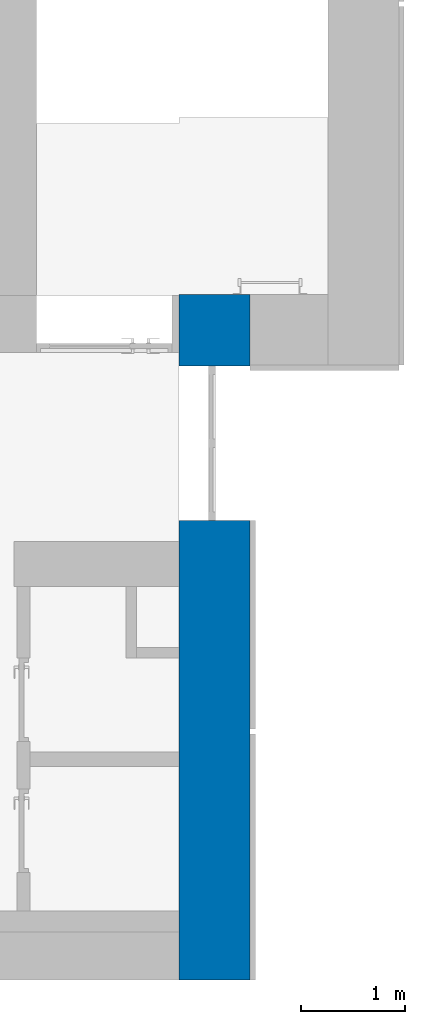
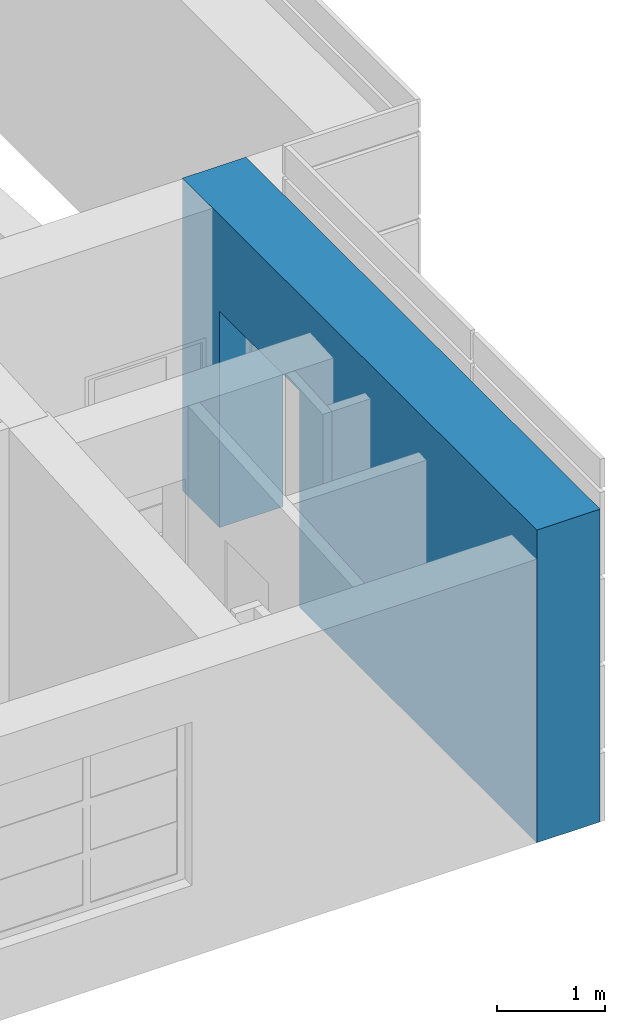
# One storey, part 40 of 46: 1 wall, 1 opening.
"""IFC2X3 building model written with IfcOpenShell, lengths in millimetres."""

from ifc_helpers import new_model, entity, si_unit, converted_unit, derived_unit, direction, frame, frame_2d, origin, place, context, subcontext, project, spatial, rectangle, extrude, material, layer, layer_set, layer_usage, type_object, element, save


model = new_model("IFC2X3")

# Units and contexts
model_context = context("Model", 3, precision=0.01, world=origin(), true_north=direction((6.12303176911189e-17, 1.0)))
body_context = subcontext(model_context, "Body", "Model", "MODEL_VIEW")
ifc_project = project(units=[si_unit("LENGTHUNIT", "METRE", prefix="MILLI"), si_unit("AREAUNIT", "SQUARE_METRE"), si_unit("VOLUMEUNIT", "CUBIC_METRE"), converted_unit("PLANEANGLEUNIT", "DEGREE", entity("IfcRatioMeasure", 0.0174532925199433), si_unit("PLANEANGLEUNIT", "RADIAN"), dimensions=[0, 0, 0, 0, 0, 0, 0]), si_unit("MASSUNIT", "GRAM", prefix="KILO"), derived_unit("MASSDENSITYUNIT", [(si_unit("MASSUNIT", "GRAM", prefix="KILO"), 1), (si_unit("LENGTHUNIT", "METRE"), -3)]), si_unit("TIMEUNIT", "SECOND"), si_unit("FREQUENCYUNIT", "HERTZ"), si_unit("THERMODYNAMICTEMPERATUREUNIT", "DEGREE_CELSIUS"), derived_unit("THERMALTRANSMITTANCEUNIT", [(si_unit("MASSUNIT", "GRAM", prefix="KILO"), 1), (si_unit("THERMODYNAMICTEMPERATUREUNIT", "KELVIN"), -1), (si_unit("TIMEUNIT", "SECOND"), -3)]), derived_unit("VOLUMETRICFLOWRATEUNIT", [(si_unit("LENGTHUNIT", "METRE"), 3), (si_unit("TIMEUNIT", "SECOND"), -1)]), si_unit("ELECTRICCURRENTUNIT", "AMPERE"), si_unit("ELECTRICVOLTAGEUNIT", "VOLT"), si_unit("POWERUNIT", "WATT"), si_unit("FORCEUNIT", "NEWTON", prefix="KILO"), si_unit("ILLUMINANCEUNIT", "LUX"), si_unit("LUMINOUSFLUXUNIT", "LUMEN"), si_unit("LUMINOUSINTENSITYUNIT", "CANDELA"), derived_unit("USERDEFINED", [(si_unit("MASSUNIT", "GRAM", prefix="KILO"), -1), (si_unit("LENGTHUNIT", "METRE"), -2), (si_unit("TIMEUNIT", "SECOND"), 3), (si_unit("LUMINOUSFLUXUNIT", "LUMEN"), 1)]), derived_unit("LINEARVELOCITYUNIT", [(si_unit("LENGTHUNIT", "METRE"), 1), (si_unit("TIMEUNIT", "SECOND"), -1)]), si_unit("PRESSUREUNIT", "PASCAL"), derived_unit("USERDEFINED", [(si_unit("LENGTHUNIT", "METRE"), -2), (si_unit("MASSUNIT", "GRAM", prefix="KILO"), 1), (si_unit("TIMEUNIT", "SECOND"), -2)])], contexts=[model_context])

# Site, building, storey
site_placement = place(None, frame((-151.875543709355, 2715.0, 0.0)))
site = spatial("IfcSite", under=ifc_project, at=site_placement, Name="Surface", CompositionType="ELEMENT")
building_placement = place(site_placement, origin())
building = spatial("IfcBuilding", under=site, at=building_placement, CompositionType="ELEMENT")
storey_placement = place(building_placement, frame((0.0, 0.0, 10060.0)))
storey = spatial("IfcBuildingStorey", under=building, at=storey_placement, Name="4 korrus", CompositionType="ELEMENT", Elevation=10060.0000000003)

# Wall, opening
ifc_material_1 = material(Name="__Tuuletõkkeplaat")
ifc_layer_1 = layer(ifc_material_1, 9.0)
ifc_material_2 = material(Name="__Soojustus EPS")
ifc_layer_2 = layer(ifc_material_2, 200.0)
ifc_material_3 = material(Name="Brick, Common")
ifc_layer_3 = layer(ifc_material_3, 450.0)
ifc_material_4 = material(Name="__Kips GN13_tava")
ifc_layer_4 = layer(ifc_material_4, 20.0)
ifc_layer_set = layer_set([ifc_layer_1, ifc_layer_2, ifc_layer_3, ifc_layer_4], Name="Basic Wall:VS-2_olemasolev sein fassaadikassettidega")
ifc_layer_usage = layer_usage(ifc_layer_set, "AXIS2", "POSITIVE", -339.5)
wall_type = type_object("IfcWallType", Name="Basic Wall:VS-2_olemasolev sein fassaadikassettidega", PredefinedType="STANDARD", material=ifc_layer_set)
wall_placement = place(storey_placement, frame((34081.1162682, -0.0953674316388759, 0.0), z_axis=(0.0, 0.0, 1.0), x_axis=(0.0, 1.0, 0.0)))
wall = element("IfcWallStandardCase", 1, at=wall_placement, inside=storey, type_object=wall_type, material=ifc_layer_usage, Name="SEIN - 003", ObjectType="Basic Wall:VS-2_olemasolev sein fassaadikassettidega", context=body_context, shape_type="SweptSolid", body=[
    extrude(rectangle(XDim=6570.09536743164, YDim=679.000000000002, at=frame_2d((3285.04768371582, 0.0), x_axis=(-1.0, 0.0))), origin(), (0.0, 0.0, 1.0), 3540.0),
])
opening_placement = place(wall_placement, frame((0.0953674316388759, 34081.1162682, 0.0), z_axis=(0.0, 0.0, 1.0), x_axis=(0.0, -1.0, 0.0)))
element("IfcOpeningElement", 2, at=opening_placement, cuts=wall, Name="SEIN - 003", ObjectType="Opening", context=body_context, shape_type="SweptSolid", body=[
    extrude(rectangle(XDim=2450.0, YDim=1479.65663216, at=frame_2d((1.13686837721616e-12, 2.8421709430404e-13), x_axis=(1.0, 0.0))), frame((34929.4162682, 5142.22928653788, 1225.0), z_axis=(-1.0, 0.0, 0.0), x_axis=(0.0, 0.0, 1.0)), (0.0, 0.0, 1.0), 1696.8),
])

save(model, "model.ifc")
